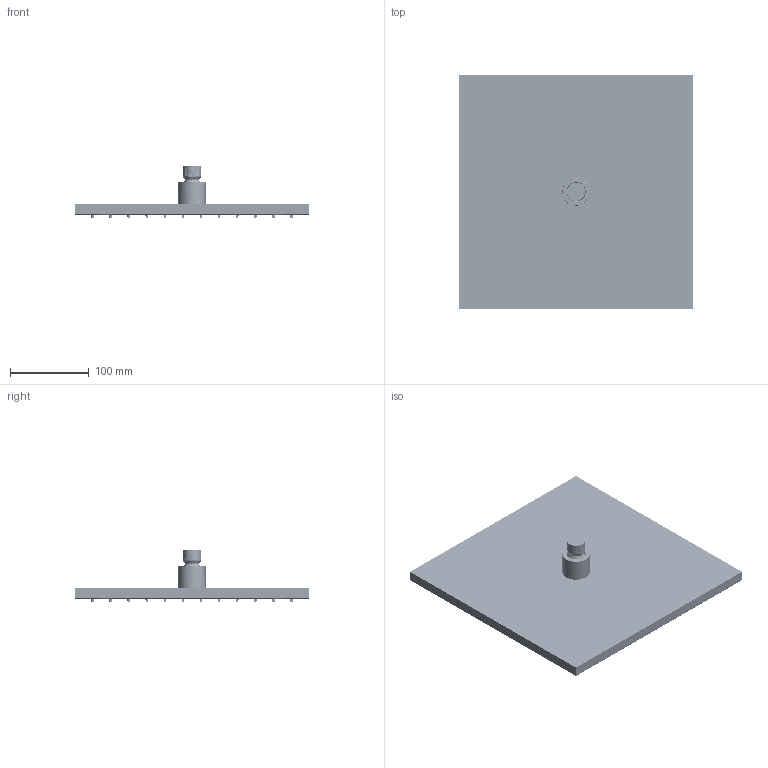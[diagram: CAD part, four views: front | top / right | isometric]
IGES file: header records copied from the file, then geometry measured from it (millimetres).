
Global section: file name: 75A014; native system: Autodesk Inventor 2017; preprocessor: unknown; author: PIZZERA; date: 20211004.164741; units: millimetre
Bounding box: 299 x 299 x 67 mm (x, y, z)
Volume: 293848.8 mm3; surface area: 564013.8 mm2
Topology: 6 solids, 6 shells, 5476 faces, 14857 edges, 9399 vertices
Faces by surface type: bspline 5476
